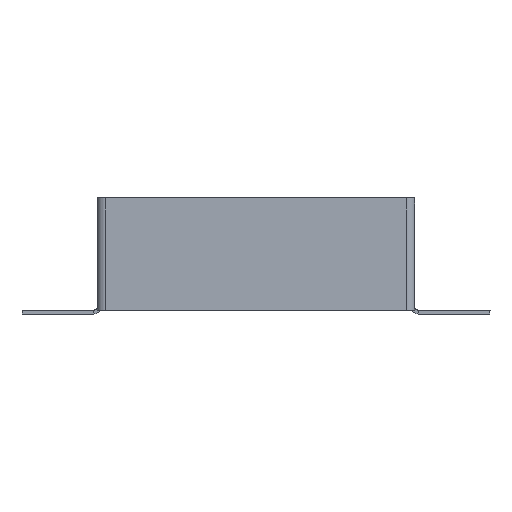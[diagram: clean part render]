
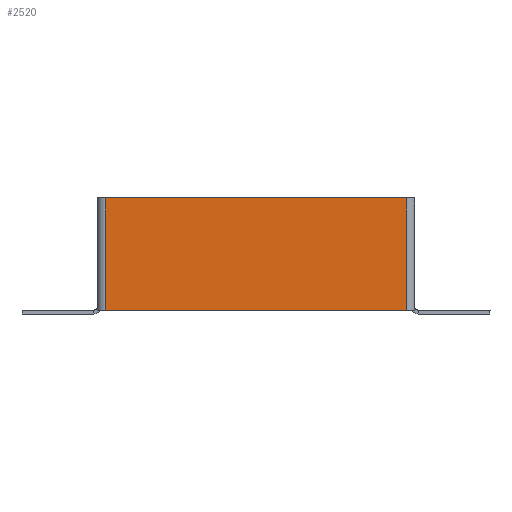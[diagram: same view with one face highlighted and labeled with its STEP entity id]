
A CAD part, front view. The second image highlights one B-rep face of the part: STEP entity #2520.
In plain terms, the highlighted planar face has unit normal (0, -1, 0).
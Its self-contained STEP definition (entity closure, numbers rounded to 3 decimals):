
#164 = EDGE_CURVE ( 'NONE', #3124, #3789, #9817, .T. ) ;
#268 = CARTESIAN_POINT ( 'NONE',  ( -78., -2., -58. ) ) ;
#881 = CARTESIAN_POINT ( 'NONE',  ( -78., -2., 0. ) ) ;
#884 = ORIENTED_EDGE ( 'NONE', *, *, #10204, .F. ) ;
#1482 = DIRECTION ( 'NONE',  ( -1., 0., 0. ) ) ;
#1902 = EDGE_CURVE ( 'NONE', #3124, #7613, #7555, .T. ) ;
#2520 = ADVANCED_FACE ( 'NONE', ( #4248 ), #4988, .F. ) ;
#2754 = EDGE_CURVE ( 'NONE', #3325, #7613, #4124, .T. ) ;
#3124 = VERTEX_POINT ( 'NONE', #881 ) ;
#3325 = VERTEX_POINT ( 'NONE', #6461 ) ;
#3394 = CARTESIAN_POINT ( 'NONE',  ( 0., -2., 0. ) ) ;
#3445 = AXIS2_PLACEMENT_3D ( 'NONE', #3394, #8907, #4071 ) ;
#3567 = DIRECTION ( 'NONE',  ( 0., 0., -1. ) ) ;
#3677 = ORIENTED_EDGE ( 'NONE', *, *, #164, .T. ) ;
#3789 = VERTEX_POINT ( 'NONE', #268 ) ;
#4071 = DIRECTION ( 'NONE',  ( 0., 0., 1. ) ) ;
#4124 = LINE ( 'NONE', #4811, #6632 ) ;
#4155 = LINE ( 'NONE', #7202, #4921 ) ;
#4248 = FACE_OUTER_BOUND ( 'NONE', #7166, .T. ) ;
#4811 = CARTESIAN_POINT ( 'NONE',  ( 78., -2., -58. ) ) ;
#4921 = VECTOR ( 'NONE', #1482, 1000. ) ;
#4988 = PLANE ( 'NONE',  #3445 ) ;
#5761 = CARTESIAN_POINT ( 'NONE',  ( -80., -2., 0. ) ) ;
#6461 = CARTESIAN_POINT ( 'NONE',  ( 78., -2., -58. ) ) ;
#6632 = VECTOR ( 'NONE', #7956, 1000. ) ;
#7166 = EDGE_LOOP ( 'NONE', ( #3677, #884, #7570, #9002 ) ) ;
#7202 = CARTESIAN_POINT ( 'NONE',  ( -80., -2., -58. ) ) ;
#7522 = CARTESIAN_POINT ( 'NONE',  ( 78., -2., 0. ) ) ;
#7526 = CARTESIAN_POINT ( 'NONE',  ( -78., -2., 0. ) ) ;
#7555 = LINE ( 'NONE', #5761, #9439 ) ;
#7570 = ORIENTED_EDGE ( 'NONE', *, *, #2754, .T. ) ;
#7613 = VERTEX_POINT ( 'NONE', #7522 ) ;
#7956 = DIRECTION ( 'NONE',  ( 0., 0., 1. ) ) ;
#8907 = DIRECTION ( 'NONE',  ( 0., 1., 0. ) ) ;
#9002 = ORIENTED_EDGE ( 'NONE', *, *, #1902, .F. ) ;
#9439 = VECTOR ( 'NONE', #9798, 1000. ) ;
#9798 = DIRECTION ( 'NONE',  ( 1., 0., 0. ) ) ;
#9817 = LINE ( 'NONE', #7526, #10311 ) ;
#10204 = EDGE_CURVE ( 'NONE', #3325, #3789, #4155, .T. ) ;
#10311 = VECTOR ( 'NONE', #3567, 1000. ) ;
